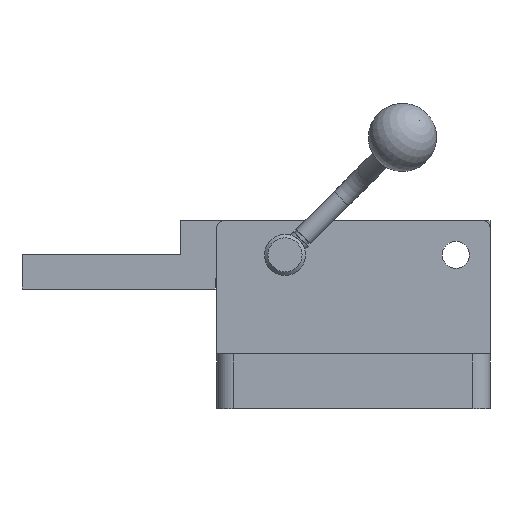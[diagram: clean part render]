
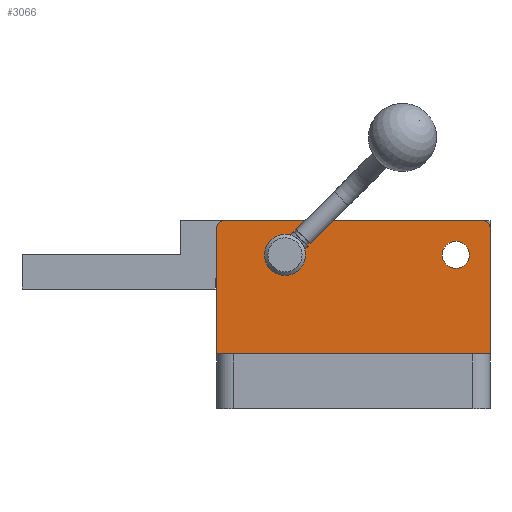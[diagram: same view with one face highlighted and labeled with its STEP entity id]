
A CAD part, front view. The second image highlights one B-rep face of the part: STEP entity #3066.
In plain terms, the highlighted planar face has unit normal (0, -1, 0).
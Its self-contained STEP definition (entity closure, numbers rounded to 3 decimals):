
#2277=FACE_BOUND('',#3987,.T.);
#2278=FACE_BOUND('',#3988,.T.);
#2279=FACE_BOUND('',#3989,.T.);
#2641=PLANE('',#10534);
#3066=ADVANCED_FACE('',(#2277,#2278,#2279),#2641,.F.);
#3987=EDGE_LOOP('',(#5170,#5171,#5172,#5173,#5174,#5175));
#3988=EDGE_LOOP('',(#5176));
#3989=EDGE_LOOP('',(#5177));
#4679=CIRCLE('',#10530,2.);
#4680=CIRCLE('',#10531,2.);
#4681=CIRCLE('',#10532,4.);
#4682=CIRCLE('',#10533,6.);
#5170=ORIENTED_EDGE('',*,*,#8076,.F.);
#5171=ORIENTED_EDGE('',*,*,#8078,.F.);
#5172=ORIENTED_EDGE('',*,*,#8079,.T.);
#5173=ORIENTED_EDGE('',*,*,#8080,.F.);
#5174=ORIENTED_EDGE('',*,*,#8081,.F.);
#5175=ORIENTED_EDGE('',*,*,#8082,.F.);
#5176=ORIENTED_EDGE('',*,*,#8083,.F.);
#5177=ORIENTED_EDGE('',*,*,#8084,.T.);
#7255=VERTEX_POINT('',#14295);
#7256=VERTEX_POINT('',#14297);
#7257=VERTEX_POINT('',#14301);
#7258=VERTEX_POINT('',#14303);
#7259=VERTEX_POINT('',#14305);
#7260=VERTEX_POINT('',#14307);
#7261=VERTEX_POINT('',#14310);
#7262=VERTEX_POINT('',#14312);
#8076=EDGE_CURVE('',#7255,#7256,#9110,.T.);
#8078=EDGE_CURVE('',#7257,#7255,#4679,.T.);
#8079=EDGE_CURVE('',#7257,#7258,#9112,.T.);
#8080=EDGE_CURVE('',#7259,#7258,#9113,.T.);
#8081=EDGE_CURVE('',#7260,#7259,#9114,.T.);
#8082=EDGE_CURVE('',#7256,#7260,#4680,.T.);
#8083=EDGE_CURVE('',#7261,#7261,#4681,.T.);
#8084=EDGE_CURVE('',#7262,#7262,#4682,.T.);
#9110=LINE('',#14296,#9805);
#9112=LINE('',#14302,#9807);
#9113=LINE('',#14304,#9808);
#9114=LINE('',#14306,#9809);
#9805=VECTOR('',#11409,1.);
#9807=VECTOR('',#11415,1.);
#9808=VECTOR('',#11416,1.);
#9809=VECTOR('',#11417,1.);
#10530=AXIS2_PLACEMENT_3D('',#14300,#11413,#11414);
#10531=AXIS2_PLACEMENT_3D('',#14308,#11418,#11419);
#10532=AXIS2_PLACEMENT_3D('',#14309,#11420,#11421);
#10533=AXIS2_PLACEMENT_3D('',#14311,#11422,#11423);
#10534=AXIS2_PLACEMENT_3D('',#14313,#11424,#11425);
#11409=DIRECTION('',(1.,0.,0.));
#11413=DIRECTION('',(0.,1.,0.));
#11414=DIRECTION('',(0.,0.,-1.));
#11415=DIRECTION('',(0.,0.,-1.));
#11416=DIRECTION('',(-1.,0.,0.));
#11417=DIRECTION('',(0.,0.,-1.));
#11418=DIRECTION('',(0.,1.,0.));
#11419=DIRECTION('',(0.,0.,-1.));
#11420=DIRECTION('',(0.,-1.,0.));
#11421=DIRECTION('',(0.,0.,-1.));
#11422=DIRECTION('',(0.,1.,0.));
#11423=DIRECTION('',(0.,0.,-1.));
#11424=DIRECTION('',(0.,1.,0.));
#11425=DIRECTION('',(0.,0.,1.));
#14295=CARTESIAN_POINT('',(-457.966,-1253.,54.942));
#14296=CARTESIAN_POINT('',(-459.966,-1253.,54.942));
#14297=CARTESIAN_POINT('',(-381.966,-1253.,54.942));
#14300=CARTESIAN_POINT('',(-457.966,-1253.,52.942));
#14301=CARTESIAN_POINT('',(-459.966,-1253.,52.942));
#14302=CARTESIAN_POINT('',(-459.966,-1253.,15.942));
#14303=CARTESIAN_POINT('',(-459.966,-1253.,15.942));
#14304=CARTESIAN_POINT('',(-459.966,-1253.,15.942));
#14305=CARTESIAN_POINT('',(-379.966,-1253.,15.942));
#14306=CARTESIAN_POINT('',(-379.966,-1253.,15.942));
#14307=CARTESIAN_POINT('',(-379.966,-1253.,52.942));
#14308=CARTESIAN_POINT('',(-381.966,-1253.,52.942));
#14309=CARTESIAN_POINT('',(-389.966,-1253.,44.942));
#14310=CARTESIAN_POINT('',(-389.966,-1253.,40.942));
#14311=CARTESIAN_POINT('',(-439.966,-1253.,44.942));
#14312=CARTESIAN_POINT('',(-439.966,-1253.,38.942));
#14313=CARTESIAN_POINT('',(-459.966,-1253.,54.942));
